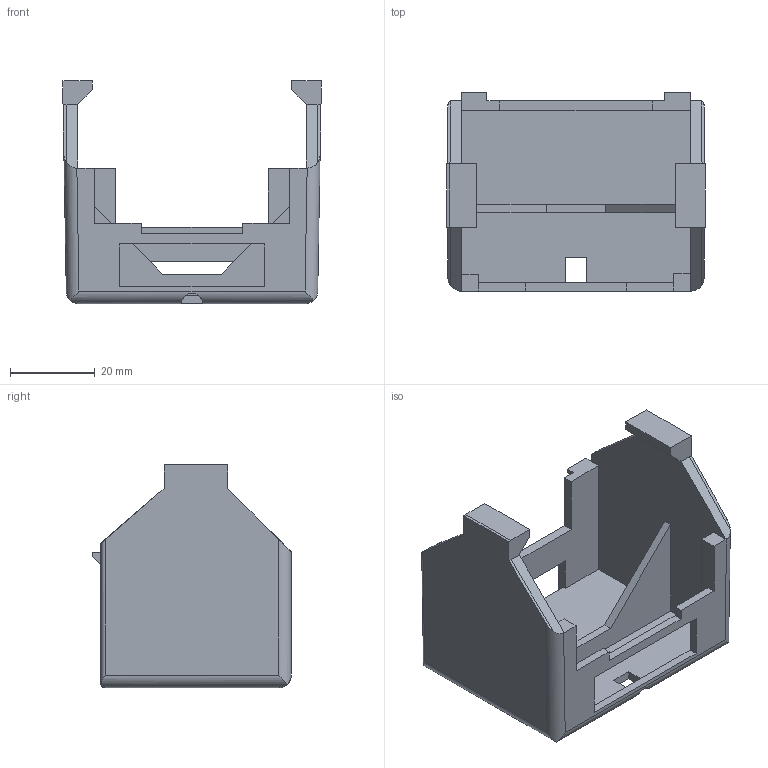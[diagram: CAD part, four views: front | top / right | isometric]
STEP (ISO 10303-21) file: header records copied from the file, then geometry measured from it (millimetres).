
FILE_DESCRIPTION(/* description */ ('Unknown'),/* implementation_level */ '2;1');
FILE_NAME(/* name */ 'vhubbard-window-brace-51',/* time_stamp */ '2024-10-28T18:30:52-05:00',/* author */ ('V Hubbard'),/* organization */ ('Hubbard Hobbies'),/* preprocessor_version */ 'ST-DEVELOPER v19.4',/* originating_system */ 'Solid Edge',/* authorisation */ 'Unknown');
FILE_SCHEMA (('AUTOMOTIVE_DESIGN {1 0 10303 214 3 1 1}'));
Length unit declared in the file: millimetre
Products named in the file (1): vhubbard-window-brace-51
Bounding box: 61.05 x 46.8 x 52.71 mm (x, y, z)
Volume: 21684 mm3; surface area: 18165.2 mm2
Topology: 1 solids, 1 shells, 84 faces, 249 edges, 163 vertices
Faces by surface type: plane 73, cylinder 11
Entity records: 3440 total; most frequent: CARTESIAN_POINT 560, ORIENTED_EDGE 498, DIRECTION 437, EDGE_CURVE 249, LINE 219, VECTOR 219, VERTEX_POINT 163, AXIS2_PLACEMENT_3D 109
